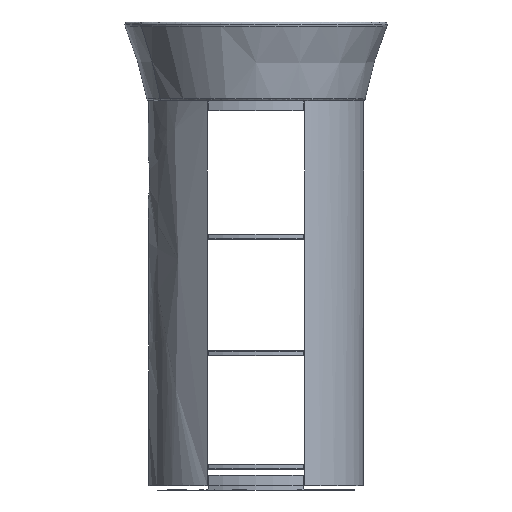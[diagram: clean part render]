
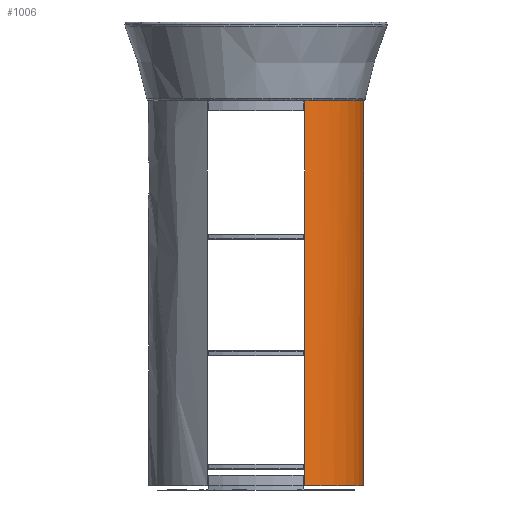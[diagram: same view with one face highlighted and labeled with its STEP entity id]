
A CAD part, front view. The second image highlights one B-rep face of the part: STEP entity #1006.
In plain terms, the highlighted free-form (B-spline) face has degree [2, 1] with [9, 2] control points.
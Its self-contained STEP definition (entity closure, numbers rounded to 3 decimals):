
#425=B_SPLINE_CURVE_WITH_KNOTS('',1,(#29169,#29170),.UNSPECIFIED.,.F.,.F.,
(2,2),(0.,734.),.UNSPECIFIED.);
#427=B_SPLINE_CURVE_WITH_KNOTS('',1,(#29178,#29179),.UNSPECIFIED.,.F.,.F.,
(2,2),(0.,734.),.UNSPECIFIED.);
#1006=ADVANCED_FACE('',(#1427),#5908,.T.);
#1427=FACE_OUTER_BOUND('',#1857,.T.);
#1857=EDGE_LOOP('',(#3428,#3429,#3430,#3431));
#3428=ORIENTED_EDGE('',*,*,#4530,.F.);
#3429=ORIENTED_EDGE('',*,*,#4532,.T.);
#3430=ORIENTED_EDGE('',*,*,#4533,.T.);
#3431=ORIENTED_EDGE('',*,*,#4534,.T.);
#4530=EDGE_CURVE('',#5592,#5593,#425,.T.);
#4532=EDGE_CURVE('',#5592,#5594,#5063,.T.);
#4533=EDGE_CURVE('',#5594,#5595,#427,.T.);
#4534=EDGE_CURVE('',#5595,#5593,#5064,.T.);
#5063=(
BOUNDED_CURVE()
B_SPLINE_CURVE(2,(#29173,#29174,#29175,#29176,#29177),.UNSPECIFIED.,.F.,
 .F.)
B_SPLINE_CURVE_WITH_KNOTS((3,2,3),(-450.971,-225.486,
0.),.UNSPECIFIED.)
CURVE()
GEOMETRIC_REPRESENTATION_ITEM()
RATIONAL_B_SPLINE_CURVE((1.,0.853,1.,0.853,1.))
REPRESENTATION_ITEM('')
);
#5064=(
BOUNDED_CURVE()
B_SPLINE_CURVE(2,(#29180,#29181,#29182,#29183,#29184),.UNSPECIFIED.,.F.,
 .F.)
B_SPLINE_CURVE_WITH_KNOTS((3,2,3),(0.,225.486,450.971),
 .UNSPECIFIED.)
CURVE()
GEOMETRIC_REPRESENTATION_ITEM()
RATIONAL_B_SPLINE_CURVE((1.,0.853,1.,0.853,1.))
REPRESENTATION_ITEM('')
);
#5592=VERTEX_POINT('',#29149);
#5593=VERTEX_POINT('',#29150);
#5594=VERTEX_POINT('',#29151);
#5595=VERTEX_POINT('',#29152);
#5908=(
BOUNDED_SURFACE()
B_SPLINE_SURFACE(2,1,((#29124,#29125),(#29126,#29127),(#29128,#29129),(#29130,
#29131),(#29132,#29133),(#29134,#29135),(#29136,#29137),(#29138,#29139),
(#29140,#29141)),.UNSPECIFIED.,.T.,.F.,.F.)
B_SPLINE_SURFACE_WITH_KNOTS((3,2,2,2,3),(2,2),(0.,322.013,644.026,
966.04,1288.053),(0.,880.824),.UNSPECIFIED.)
GEOMETRIC_REPRESENTATION_ITEM()
RATIONAL_B_SPLINE_SURFACE(((1.,1.),(0.707,0.707),
(1.,1.),(0.707,0.707),(1.,1.),(0.707,
0.707),(1.,1.),(0.707,0.707),(1.,1.)))
REPRESENTATION_ITEM('')
SURFACE()
);
#29124=CARTESIAN_POINT('',(0.,-205.,368.616));
#29125=CARTESIAN_POINT('',(0.,-205.,-512.208));
#29126=CARTESIAN_POINT('',(-205.,-205.,368.616));
#29127=CARTESIAN_POINT('',(-205.,-205.,-512.208));
#29128=CARTESIAN_POINT('',(-205.,0.,368.616));
#29129=CARTESIAN_POINT('',(-205.,0.,-512.208));
#29130=CARTESIAN_POINT('',(-205.,205.,368.616));
#29131=CARTESIAN_POINT('',(-205.,205.,-512.208));
#29132=CARTESIAN_POINT('',(0.,205.,368.616));
#29133=CARTESIAN_POINT('',(0.,205.,-512.208));
#29134=CARTESIAN_POINT('',(205.,205.,368.616));
#29135=CARTESIAN_POINT('',(205.,205.,-512.208));
#29136=CARTESIAN_POINT('',(205.,0.,368.616));
#29137=CARTESIAN_POINT('',(205.,0.,-512.208));
#29138=CARTESIAN_POINT('',(205.,-205.,368.616));
#29139=CARTESIAN_POINT('',(205.,-205.,-512.208));
#29140=CARTESIAN_POINT('',(0.,-205.,368.616));
#29141=CARTESIAN_POINT('',(0.,-205.,-512.208));
#29149=CARTESIAN_POINT('',(93.,182.691,295.204));
#29150=CARTESIAN_POINT('',(93.,182.691,-438.796));
#29151=CARTESIAN_POINT('',(93.,-182.691,295.204));
#29152=CARTESIAN_POINT('',(93.,-182.691,-438.796));
#29169=CARTESIAN_POINT('',(93.,182.691,295.204));
#29170=CARTESIAN_POINT('',(93.,182.691,-438.796));
#29173=CARTESIAN_POINT('',(93.,182.691,295.204));
#29174=CARTESIAN_POINT('',(205.,125.677,295.204));
#29175=CARTESIAN_POINT('',(205.,0.,295.204));
#29176=CARTESIAN_POINT('',(205.,-125.677,295.204));
#29177=CARTESIAN_POINT('',(93.,-182.691,295.204));
#29178=CARTESIAN_POINT('',(93.,-182.691,295.204));
#29179=CARTESIAN_POINT('',(93.,-182.691,-438.796));
#29180=CARTESIAN_POINT('',(93.,-182.691,-438.796));
#29181=CARTESIAN_POINT('',(205.,-125.677,-438.796));
#29182=CARTESIAN_POINT('',(205.,0.,-438.796));
#29183=CARTESIAN_POINT('',(205.,125.677,-438.796));
#29184=CARTESIAN_POINT('',(93.,182.691,-438.796));
